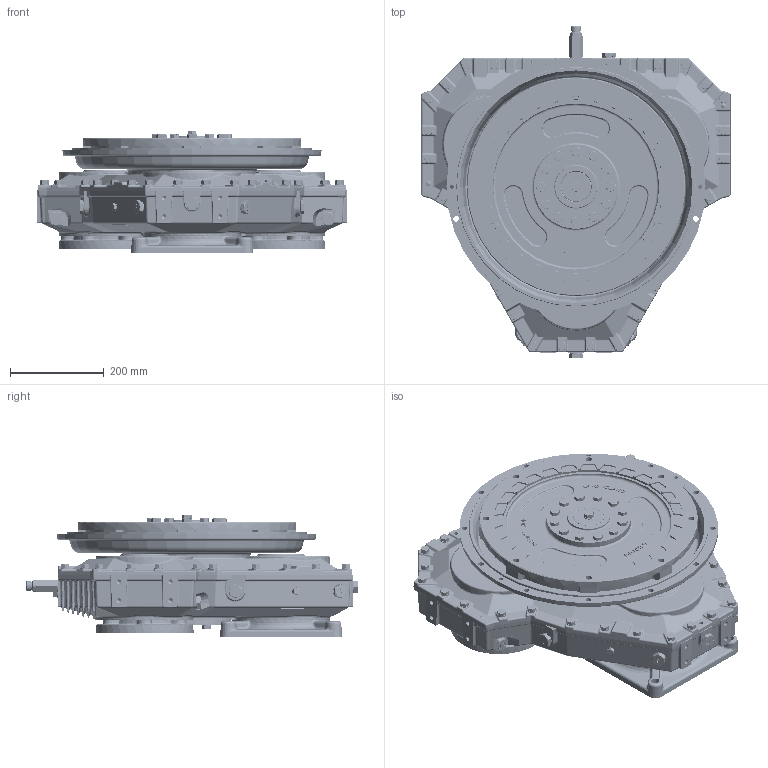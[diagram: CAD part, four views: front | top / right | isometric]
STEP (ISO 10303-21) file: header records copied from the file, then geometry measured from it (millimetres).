
FILE_DESCRIPTION (( 'STEP AP214' ), '1' );
FILE_NAME ('1029025C.STEP', '2016-10-28T11:20:08', ( 'utente' ), ( 'Hewlett-Packard Company' ), 'SwSTEP 2.0', 'SolidWorks 2015', '' );
FILE_SCHEMA (( 'AUTOMOTIVE_DESIGN' ));
Length unit declared in the file: millimetre
Products named in the file (10): IT0000203_rev00-installation; ITam450-002_rev00-installation; IT4588040_rev00-installation; IT1042336_rev01-installation_reissued; IT1042405_rev00-installation; ITam230-001_rev01-installation; IT2021216_rev03-installation; IT1071006B_rev03-installation; ITBC0610000_rev00-installation; 1029025C
Assembly tree (11 placements, depth 2):
  1029025C
    ITBC0610000_rev00-installation
    IT1071006B_rev03-installation
    IT2021216_rev03-installation  x2
    ITam230-001_rev01-installation
    IT1042405_rev00-installation
    IT1042336_rev01-installation_reissued  x2
    IT4588040_rev00-installation
    ITam450-002_rev00-installation
    IT0000203_rev00-installation
Bounding box: 660 x 708.8 x 260 mm (x, y, z)
Volume: 41631700.6 mm3; surface area: 4519035.8 mm2
Topology: 173 solids, 200 shells, 10088 faces, 25939 edges, 16619 vertices
Faces by surface type: plane 4344, cylinder 2574, bspline 1923, cone 607, torus 508, sphere 132
Full cylindrical faces by diameter (mm): 4 x1, 8 x4, 8.5 x47, 9 x2, 9.9 x1, 10 x121, 10.2 x46, 10.5 x30, 11 x20, 12 x113, 12.5 x2, 13 x20, 13.5 x8, 13.766 x1, 14 x9, 16 x24, 16.2 x41, 17 x9, 17.3 x1, 17.5 x4, 17.6 x1, 18 x21, 18.5 x5, 18.631 x5, 19 x1, 19.3 x1, 20 x16, 20.7 x5, 21 x5, 21.3 x1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
Entity records: 449390 total; most frequent: CARTESIAN_POINT 143716, ORIENTED_EDGE 43915, DIRECTION 37616, EDGE_CURVE 21958, VERTEX_POINT 14638, AXIS2_PLACEMENT_3D 13489, EDGE_LOOP 11173, LINE 10638
